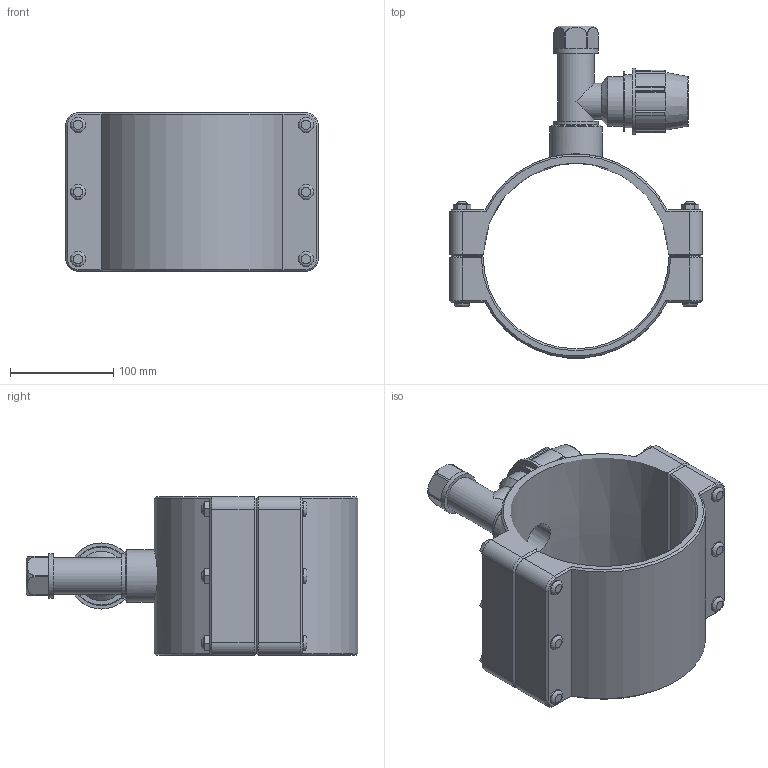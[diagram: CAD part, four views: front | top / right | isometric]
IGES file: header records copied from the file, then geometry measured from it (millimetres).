
Global section: file name: 165400180032_165406180032.ipt; native system: Autodesk Inventor 2015; preprocessor: unknown; author: KIM; date: 20170618.094008; units: millimetre
Bounding box: 245 x 321.65 x 154 mm (x, y, z)
Volume: 1761558.2 mm3; surface area: 297366.8 mm2
Topology: 1 solids, 1 shells, 260 faces, 648 edges, 422 vertices
Faces by surface type: plane 163, cylinder 48, cone 30, revolution 19
Full cylindrical faces by diameter (mm): 10 x6, 15 x12, 35.057 x2, 38.952 x1, 42.847 x2, 48 x1, 50.638 x1, 51.2 x1, 57.6 x1, 64 x1
